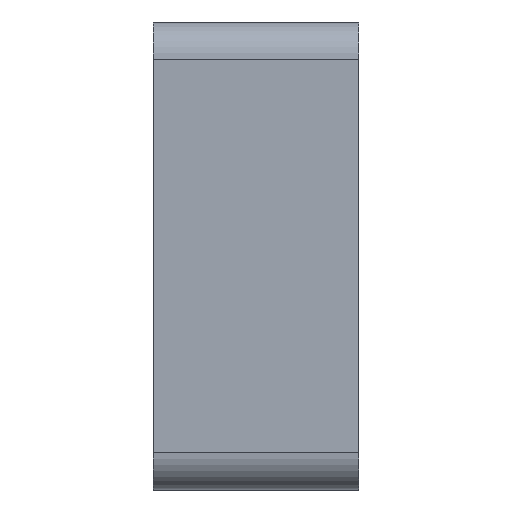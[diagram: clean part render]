
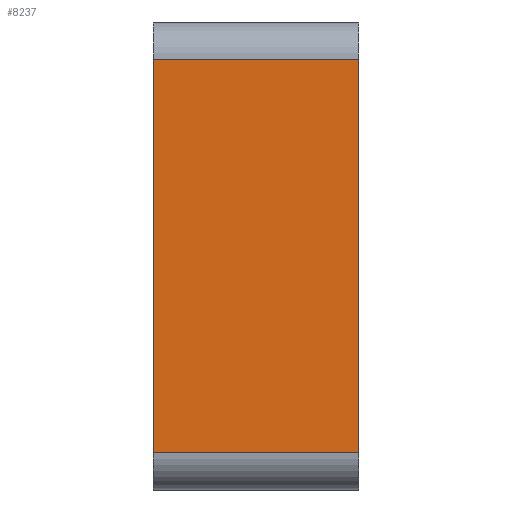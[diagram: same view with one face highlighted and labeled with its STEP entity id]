
A CAD part, left-side view. The second image highlights one B-rep face of the part: STEP entity #8237.
In plain terms, the highlighted planar face has unit normal (-1, 0, 0).
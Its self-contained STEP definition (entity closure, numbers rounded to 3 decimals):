
#64 = DIRECTION ( 'NONE',  ( 0., 0., -1. ) ) ;
#477 = VERTEX_POINT ( 'NONE', #7496 ) ;
#1358 = CARTESIAN_POINT ( 'NONE',  ( -75., 5.5, -12.5 ) ) ;
#1668 = AXIS2_PLACEMENT_3D ( 'NONE', #10471, #5301, #64 ) ;
#1686 = CARTESIAN_POINT ( 'NONE',  ( -75., 5.5, 10.5 ) ) ;
#1877 = CARTESIAN_POINT ( 'NONE',  ( -75., 5.5, -10.5 ) ) ;
#2109 = EDGE_LOOP ( 'NONE', ( #8359, #6234, #8725, #5614 ) ) ;
#2766 = EDGE_CURVE ( 'NONE', #5630, #4339, #4518, .T. ) ;
#2960 = VECTOR ( 'NONE', #5258, 1000. ) ;
#3196 = DIRECTION ( 'NONE',  ( 0., 0., 1. ) ) ;
#3670 = VECTOR ( 'NONE', #9187, 1000. ) ;
#4339 = VERTEX_POINT ( 'NONE', #9856 ) ;
#4518 = LINE ( 'NONE', #9262, #6840 ) ;
#5177 = FACE_OUTER_BOUND ( 'NONE', #2109, .T. ) ;
#5258 = DIRECTION ( 'NONE',  ( 0., 1., 0. ) ) ;
#5301 = DIRECTION ( 'NONE',  ( 1., 0., 0. ) ) ;
#5484 = EDGE_CURVE ( 'NONE', #477, #9986, #5979, .T. ) ;
#5614 = ORIENTED_EDGE ( 'NONE', *, *, #8798, .T. ) ;
#5630 = VERTEX_POINT ( 'NONE', #6843 ) ;
#5941 = EDGE_CURVE ( 'NONE', #477, #5630, #5984, .T. ) ;
#5979 = LINE ( 'NONE', #1358, #3670 ) ;
#5984 = LINE ( 'NONE', #1877, #8285 ) ;
#6234 = ORIENTED_EDGE ( 'NONE', *, *, #5941, .T. ) ;
#6840 = VECTOR ( 'NONE', #3196, 1000. ) ;
#6843 = CARTESIAN_POINT ( 'NONE',  ( -75., -5.5, -10.5 ) ) ;
#7020 = PLANE ( 'NONE',  #1668 ) ;
#7496 = CARTESIAN_POINT ( 'NONE',  ( -75., 5.5, -10.5 ) ) ;
#7595 = LINE ( 'NONE', #8672, #2960 ) ;
#8237 = ADVANCED_FACE ( 'NONE', ( #5177 ), #7020, .F. ) ;
#8285 = VECTOR ( 'NONE', #8398, 1000. ) ;
#8359 = ORIENTED_EDGE ( 'NONE', *, *, #5484, .F. ) ;
#8398 = DIRECTION ( 'NONE',  ( 0., -1., 0. ) ) ;
#8672 = CARTESIAN_POINT ( 'NONE',  ( -75., 5.5, 10.5 ) ) ;
#8725 = ORIENTED_EDGE ( 'NONE', *, *, #2766, .T. ) ;
#8798 = EDGE_CURVE ( 'NONE', #4339, #9986, #7595, .T. ) ;
#9187 = DIRECTION ( 'NONE',  ( 0., 0., 1. ) ) ;
#9262 = CARTESIAN_POINT ( 'NONE',  ( -75., -5.5, -12.5 ) ) ;
#9856 = CARTESIAN_POINT ( 'NONE',  ( -75., -5.5, 10.5 ) ) ;
#9986 = VERTEX_POINT ( 'NONE', #1686 ) ;
#10471 = CARTESIAN_POINT ( 'NONE',  ( -75., 5.5, -12.5 ) ) ;
